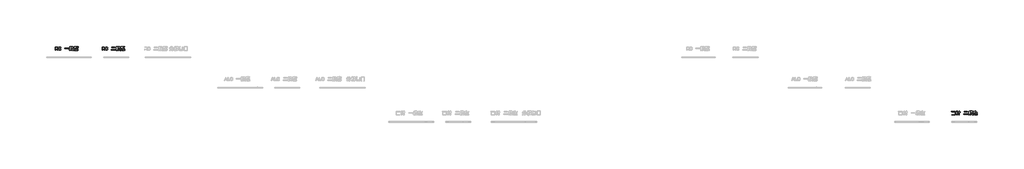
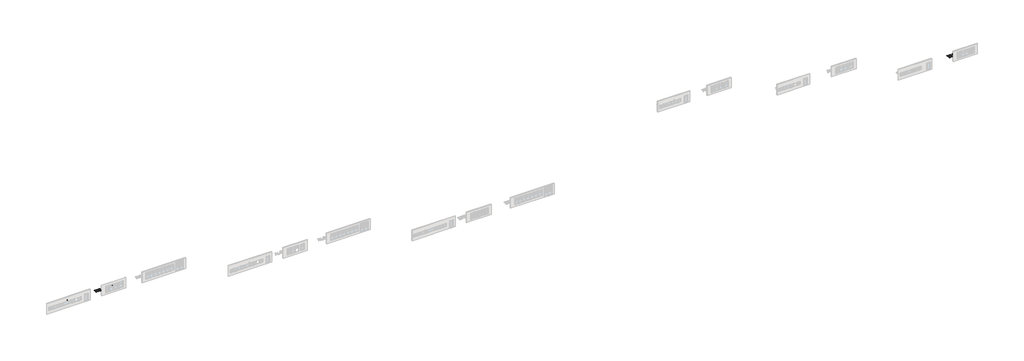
# One storey, part 7 of 9: 3 proxies.
"""IFC4 building model written with IfcOpenShell, lengths in millimetres."""

from ifc_helpers import new_model, si_unit, origin, origin_with_axes, place, context, project, spatial, polyline, outline, extrude, element, save

model = new_model("IFC4")

# Units and contexts
model_context = context("Model", 3, world=origin())
ifc_project = project(units=[si_unit("LENGTHUNIT", "METRE", prefix="MILLI")], contexts=[model_context])

# Site, building, storey
site = spatial("IfcSite", under=ifc_project)
building = spatial("IfcBuilding", under=site)
storey = spatial("IfcBuildingStorey", under=building, Name="レベル 1", Elevation=0.0)

# Proxies
placement = place(None, origin())
element("IfcBuildingElementProxy", 1, Name="600mm Arial", ObjectType="600mm Arial", at=placement, inside=storey, context=model_context, shape_type="SweptSolid", body=[
    extrude(outline(polyline([(-4763.9302584, 3042.8218942), (-4354.0874198, 3042.8218942), (-4307.4312039, 3038.8576406), (-4265.0441841, 3026.9648796), (-4226.9263606, 3007.1436114), (-4193.0777333, 2979.3938359), (-4165.3279578, 2944.6303808), (-4145.5066895, 2903.768074), (-4133.6139286, 2856.8069154), (-4129.6496749, 2803.7469051), (-4133.6139286, 2750.6868948), (-4145.5066895, 2703.7257362), (-4165.3279578, 2662.8634294), (-4193.0777333, 2628.0999743), (-4211.9841738, 2612.5479023), (-4234.5499253, 2600.0452562), (-4260.7749879, 2590.592036), (-4290.6593615, 2584.1882416), (-4100.3751865, 2208.498973), (-4222.3522218, 2208.498973), (-4397.9991525, 2562.5251202), (-4651.7113859, 2562.5251202), (-4651.7113859, 2208.498973), (-4763.9302584, 2208.498973), (-4763.9302584, 3042.8218942)]), holes=[polyline([(-4651.7113859, 2943.0934702), (-4651.7113859, 2662.2535442), (-4363.8455827, 2662.2535442), (-4340.3650034, 2664.3881423), (-4318.7140796, 2670.7919367), (-4298.8928114, 2681.4649272), (-4280.9011987, 2696.4071141), (-4265.9590119, 2715.9234397), (-4255.2860213, 2740.3188468), (-4248.8822269, 2769.5933352), (-4246.7476288, 2803.7469051), (-4249.1871695, 2836.0708194), (-4256.5057916, 2864.7354227), (-4268.7034952, 2889.740715), (-4285.7802801, 2911.0866961), (-4306.2114335, 2925.0896598), (-4328.4722424, 2935.0917767), (-4352.5627069, 2941.0930468), (-4378.4828269, 2943.0934702), (-4651.7113859, 2943.0934702)])]), origin_with_axes(), (0.0, 0.0, 1.0), 10.0),
    extrude(outline(polyline([(-4011.1855783, 2618.3418115), (-4009.2796871, 2670.5632297), (-4003.5620136, 2719.8876934), (-3994.0325577, 2766.3152024), (-3980.6913195, 2809.8457569), (-3963.5382989, 2850.4793567), (-3942.573496, 2888.216002), (-3917.7969107, 2923.0556927), (-3889.208543, 2954.9984288), (-3865.1943142, 2976.7255882), (-3839.5029012, 2995.5557931), (-3812.1343039, 3011.4890433), (-3783.0885223, 3024.5253389), (-3752.3655566, 3034.66468), (-3719.9654066, 3041.9070665), (-3650.1335539, 3047.7009756), (-3580.9115864, 3042.5169516), (-3519.6181262, 3026.9648796), (-3491.9445863, 3015.3008256), (-3466.2531732, 3001.0447596), (-3442.543887, 2984.1966817), (-3420.8167276, 2964.7565917), (-3382.0890189, 2917.7954331), (-3353.7293582, 2864.7354227), (-3335.7377455, 2805.5765606), (-3328.1141808, 2740.3188468), (-3445.2121346, 2740.3188468), (-3452.8356993, 2788.4997757), (-3465.9482306, 2830.5818529), (-3484.5497285, 2866.5650783), (-3508.640193, 2896.4494519), (-3539.4393944, 2922.0646293), (-3573.2880217, 2940.3611846), (-3610.1860748, 2951.3391178), (-3650.1335539, 2954.9984288), (-3692.8255162, 2950.7292326), (-3733.0779379, 2937.9216439), (-3770.8908188, 2916.5756627), (-3806.264159, 2886.6912891), (-3826.8477837, 2863.2869454), (-3844.6869252, 2836.9856472), (-3859.7815833, 2807.7873944), (-3872.1317581, 2775.692187), (-3881.7374496, 2740.700025), (-3888.5986578, 2702.8109084), (-3894.0876244, 2618.3418115), (-3888.5986578, 2533.8727146), (-3881.7374496, 2495.983598), (-3872.1317581, 2460.991436), (-3859.7815833, 2428.8962286), (-3844.6869252, 2399.6979758), (-3826.8477837, 2373.3966775), (-3806.264159, 2349.9923339), (-3772.7204743, 2322.2425584), (-3735.5174786, 2302.4212901), (-3694.6551718, 2290.5285292), (-3650.1335539, 2286.5642756), (-3604.0872231, 2289.918644), (-3563.5298589, 2299.9817494), (-3528.4614612, 2316.7535918), (-3498.8820302, 2340.2341711), (-3468.9976565, 2378.047052), (-3447.6516754, 2423.1785551), (-3434.8440866, 2475.6286802), (-3430.5748904, 2535.3974275), (-3313.4769366, 2535.3974275), (-3321.4054438, 2457.0271823), (-3329.4864224, 2421.2726639), (-3340.3118843, 2387.8052148), (-3353.8818295, 2356.6248352), (-3370.196258, 2327.731525), (-3389.2551697, 2301.1252841), (-3411.0585648, 2276.8061127), (-3432.9381955, 2257.3660227), (-3457.1048956, 2240.5179447), (-3483.5586651, 2226.2618787), (-3512.299504, 2214.5978247), (-3576.6423901, 2199.0457528), (-3650.1335539, 2193.8617288), (-3719.9654066, 2199.6556379), (-3752.3655566, 2206.8980244), (-3783.0885223, 2217.0373655), (-3812.1343039, 2230.0736611), (-3839.5029012, 2246.0069113), (-3865.1943142, 2264.8371161), (-3889.208543, 2286.5642756), (-3917.7969107, 2318.430776), (-3942.573496, 2353.0417598), (-3963.5382989, 2390.3972268), (-3980.6913195, 2430.4971772), (-3994.0325577, 2473.3416108), (-4003.5620136, 2518.9305277), (-4009.2796871, 2567.263928), (-4011.1855783, 2618.3418115)])), origin_with_axes(), (0.0, 0.0, 1.0), 10.0),
    extrude(outline(polyline([(-1303.6857218, 2725.6816025), (-1303.6857218, 2613.4627301), (-2333.1718995, 2613.4627301), (-2333.1718995, 2725.6816025), (-1303.6857218, 2725.6816025)])), origin_with_axes(), (0.0, 0.0, 1.0), 10.0),
    extrude(outline(polyline([(-932.8755346, 3101.3708712), (-872.8018447, 3112.6537469), (-814.5578104, 3126.9860486), (-758.1434316, 3144.3677761), (-703.5587083, 3164.7989295), (-635.2515685, 3086.7336269), (-630.3724871, 3076.3655789), (-635.2515685, 3069.656842), (-649.8888128, 3066.6074161), (-674.2842198, 3067.2173013), (-795.0414848, 3041.6021239), (-923.1173718, 3023.3055686), (-923.1173718, 2891.5703705), (-693.8005455, 2891.5703705), (-693.8005455, 2791.8419465), (-923.1173718, 2791.8419465), (-923.1173718, 2657.3744628), (-688.9214641, 2657.3744628), (-688.9214641, 2557.6460387), (-923.1173718, 2557.6460387), (-923.1173718, 2393.9040666), (-645.0097314, 2452.4530435), (-645.0097314, 2364.6295781), (-923.1173718, 2291.443357), (-923.1173718, 2096.2801005), (-1022.8457958, 2096.2801005), (-1022.8457958, 2271.9270313), (-1074.3688955, 2257.2897871), (-1077.723264, 2243.5673706), (-1082.907288, 2236.5536911), (-1089.9209675, 2236.2487485), (-1098.7643026, 2242.6525429), (-1113.4015468, 2364.6295781), (-1022.8457958, 2379.2668224), (-1022.8457958, 3120.8871968), (-932.8755346, 3101.3708712)])), origin_with_axes(), (0.0, 0.0, 1.0), 10.0),
    extrude(outline(polyline([(-40.0036364, 2096.2801005), (-121.1183649, 2126.4694168), (-198.5737823, 2163.3674699), (-272.3698886, 2206.97426), (-342.5066839, 2257.2897871), (-405.9347422, 2210.3286285), (-479.1209634, 2167.026781), (-562.0653474, 2127.3842445), (-654.7678942, 2091.4010191), (-698.6796269, 2193.8617288), (-609.3314486, 2221.9164469), (-531.5710886, 2252.4107057), (-465.3985469, 2285.3445052), (-410.8138237, 2320.7178454), (-453.8107286, 2379.1814384), (-490.0988966, 2440.5968757), (-519.6783276, 2504.9641572), (-542.5490217, 2572.283283), (-615.7352429, 2572.283283), (-615.7352429, 2672.011707), (-186.3760788, 2672.011707), (-166.8597531, 2691.5280327), (-88.7944505, 2628.0999743), (-78.7313451, 2619.2566393), (-77.8165174, 2612.2429597), (-86.0499672, 2607.0589357), (-103.4316948, 2603.7045673), (-141.8544609, 2516.1860445), (-183.9365381, 2439.0355696), (-229.6779263, 2372.2531428), (-279.0786256, 2315.838764), (-221.4444764, 2285.0395626), (-155.8818199, 2256.0700167), (-82.3906562, 2228.9301264), (-0.9709851, 2203.6198916), (-40.0036364, 2096.2801005)]), holes=[polyline([(-454.7255564, 2572.283283), (-438.5635992, 2524.5658668), (-414.4731347, 2475.677471), (-382.454163, 2425.6180958), (-342.5066839, 2374.387741), (-303.7789752, 2418.5922185), (-270.5402331, 2466.3096347), (-242.7904576, 2517.5399895), (-220.5296486, 2572.283283), (-454.7255564, 2572.283283)])]), origin_with_axes(), (0.0, 0.0, 1.0), 10.0),
    extrude(outline(polyline([(-127.8271018, 2847.6586378), (-104.6514651, 2852.5377192), (-97.6377856, 2858.636571), (-93.673532, 2867.1749634), (-74.1572063, 2945.240266), (18.5453405, 2920.844859), (10.235655, 2880.317989), (-0.0561574, 2845.1947017), (-12.3300966, 2815.474997), (-26.5861626, 2791.1588751), (-42.8243554, 2772.2463357), (-61.044675, 2758.7373791), (-81.2471215, 2750.6320051), (-103.4316948, 2747.9302138), (-205.8924044, 2747.9302138), (-226.9791844, 2749.3359991), (-245.2543937, 2753.5533551), (-260.7180323, 2760.5822817), (-273.3701003, 2770.4227791), (-283.2105976, 2783.074847), (-290.2395243, 2798.5384857), (-294.4568803, 2816.813695), (-295.8626656, 2837.900475), (-295.8626656, 3050.4332612), (-464.4837192, 3050.4332612), (-464.4837192, 2906.2076147), (-467.3806738, 2865.3453079), (-476.0715375, 2828.1423122), (-490.5563105, 2794.5986275), (-510.8349926, 2764.7142538), (-536.9075839, 2738.4891912), (-568.7740843, 2715.9234397), (-606.434494, 2697.0169992), (-649.8888128, 2681.7698698), (-688.9214641, 2769.5933352), (-659.692717, 2778.2079633), (-634.3611362, 2789.4146035), (-612.9267217, 2803.2132556), (-595.3894734, 2819.6039197), (-581.7493915, 2838.5865958), (-572.0064758, 2860.1612839), (-566.1607263, 2884.327984), (-564.2121432, 2911.0866961), (-564.2121432, 3150.1616853), (-196.1342416, 3150.1616853), (-196.1342416, 2886.6912891), (-193.9996435, 2869.6145041), (-187.5958491, 2857.4168006), (-176.9228585, 2850.0981785), (-161.9806717, 2847.6586378), (-127.8271018, 2847.6586378)])), origin_with_axes(), (0.0, 0.0, 1.0), 10.0),
    extrude(outline(polyline([(1209.0412047, 3086.7336269), (1209.0412047, 2896.4494519), (1126.0968207, 2896.4494519), (1110.5447487, 2845.4752489), (1100.2529364, 2825.4496691), (1088.2839398, 2809.0651038), (1074.637759, 2796.3215531), (1059.3143939, 2787.2190168), (1042.3138446, 2781.7574951), (1023.6361111, 2779.9369878), (818.7146919, 2779.9369878), (785.7564969, 2785.3893613), (772.8086346, 2792.2048281), (762.2149291, 2801.7464817), (753.9753804, 2814.014322), (748.0899884, 2829.0083491), (743.3816749, 2867.1749634), (743.3816749, 2999.4956513), (599.1560284, 2999.4956513), (592.8284697, 2950.2321762), (576.2853343, 2904.2193891), (549.5266222, 2861.4572899), (512.5523333, 2821.9458788), (465.3624678, 2785.6851556), (407.9570256, 2752.6751204), (340.3360067, 2722.9157733), (262.499411, 2696.4071141), (233.2249226, 2789.1096609), (296.1193314, 2807.7233564), (350.627819, 2828.5326387), (396.7503855, 2851.5375075), (434.4870308, 2876.737963), (463.8377549, 2904.1340051), (484.8025578, 2933.7256339), (497.3814396, 2965.5128493), (501.5744002, 2999.4956513), (272.2575739, 2999.4956513), (272.2575739, 2872.0540449), (172.5291498, 2872.0540449), (172.5291498, 3086.7336269), (636.0418838, 3086.7336269), (636.0418838, 3203.8315808), (730.8912265, 3203.8315808), (745.8334133, 3200.1722697), (751.6273225, 3194.073418), (748.272954, 3185.5350255), (735.7703079, 3174.5570923), (735.7703079, 3086.7336269), (1209.0412047, 3086.7336269)]), holes=[polyline([(994.3616227, 2867.1749634), (1009.9136946, 2870.8342745), (1022.4163408, 2881.8122077), (1031.869561, 2900.108763), (1038.2733553, 2925.7239404), (1109.3127807, 2906.2076147), (1109.3127807, 2999.4956513), (843.1100989, 2999.4956513), (843.1100989, 2896.4494519), (844.9397544, 2883.6418632), (850.428721, 2874.4935856), (859.5769987, 2869.004619), (872.3845874, 2867.1749634), (994.3616227, 2867.1749634)])]), origin_with_axes(), (0.0, 0.0, 1.0), 10.0),
    extrude(outline(polyline([(540.6070514, 2099.0123861), (519.5202715, 2100.4181715), (501.2450622, 2104.6355275), (485.7814235, 2111.6644541), (473.1293555, 2121.5049514), (463.2888582, 2134.1570194), (456.2599316, 2149.6206581), (452.0425756, 2167.8958674), (450.6367902, 2188.9826473), (450.6367902, 2432.9367179), (545.4861329, 2432.9367179), (560.4283197, 2429.2774068), (566.2222289, 2423.1785551), (562.8678604, 2414.6401626), (550.3652143, 2403.6622294), (550.3652143, 2232.89438), (552.1948698, 2217.9521932), (557.6838364, 2207.2792026), (566.832114, 2200.8754083), (579.6397027, 2198.7408102), (838.2310175, 2198.7408102), (849.7426002, 2200.4179944), (859.8819413, 2205.4495471), (876.0438984, 2225.5757579), (886.716889, 2259.1194426), (891.900913, 2306.0806012), (999.2407041, 2281.6851941), (994.3616227, 2238.8712548), (987.0430005, 2201.7658406), (977.2848377, 2170.3689518), (965.0871342, 2144.6805881), (950.44989, 2124.7007498), (933.373105, 2110.4294366), (913.8567794, 2101.8666488), (891.900913, 2099.0123861), (540.6070514, 2099.0123861)])), origin_with_axes(), (0.0, 0.0, 1.0), 10.0),
    extrude(outline(polyline([(306.4111437, 2491.4856948), (303.0567753, 2477.7632783), (297.8727513, 2470.7495988), (290.8590717, 2470.4446562), (282.0157367, 2476.8484506), (257.6203296, 2584.1882416), (408.8718534, 2584.1882416), (594.276947, 2842.7795564), (691.8585752, 2784.2305795), (692.1635178, 2774.167474), (688.1992641, 2768.3735649), (679.9658142, 2766.8488519), (667.4631681, 2769.5933352), (501.5744002, 2584.1882416), (921.1754015, 2608.5836487), (854.0880321, 2661.0337738), (789.4402034, 2701.2861955), (852.8682617, 2754.956091), (915.6864349, 2725.0717174), (987.0430005, 2679.3303291), (1066.9379586, 2617.7319263), (1155.3713092, 2540.2765089), (1067.5478438, 2471.9693692), (999.2407041, 2540.2765089), (306.4111437, 2491.4856948)])), origin_with_axes(), (0.0, 0.0, 1.0), 10.0),
    extrude(outline(polyline([(1057.789681, 2432.9367179), (1106.2755525, 2378.047052), (1149.2724574, 2320.7178454), (1186.7803958, 2260.9490982), (1218.7993675, 2198.7408102), (1121.2177393, 2135.3127518), (1090.4185379, 2203.6198916), (1056.5699106, 2267.0479499), (1019.6718575, 2325.5969268), (979.7243784, 2379.2668224), (1057.789681, 2432.9367179)])), origin_with_axes(), (0.0, 0.0, 1.0), 10.0),
    extrude(outline(polyline([(721.1330636, 2276.8061127), (703.4463935, 2309.7399123), (679.6608717, 2345.1132525), (613.7932726, 2423.1785551), (696.7376566, 2476.8484506), (727.8418006, 2450.0135028), (757.7261742, 2418.2994736), (786.3907775, 2381.7063631), (813.8356105, 2340.2341711), (721.1330636, 2276.8061127)])), origin_with_axes(), (0.0, 0.0, 1.0), 10.0),
    extrude(outline(polyline([(164.9177828, 2159.7081589), (200.5960656, 2228.9301264), (229.5656115, 2295.102668), (251.8264204, 2358.2257838), (267.3784924, 2418.2994736), (364.9601207, 2384.1459038), (371.9738002, 2376.8272817), (373.4985131, 2369.5086595), (369.5342595, 2362.1900374), (360.0810392, 2354.8714153), (341.1745988, 2288.3939311), (318.6088473, 2225.5757579), (292.3837847, 2166.4168958), (262.499411, 2110.9173448), (164.9177828, 2159.7081589)])), origin_with_axes(), (0.0, 0.0, 1.0), 10.0),
])
element("IfcBuildingElementProxy", 2, Name="600mm Arial", ObjectType="600mm Arial", at=placement, inside=storey, context=model_context, shape_type="SweptSolid", body=[
    extrude(outline(polyline([(7541.0127567, 3042.8218942), (7950.8555952, 3042.8218942), (7997.5118112, 3038.8576406), (8039.898831, 3026.9648796), (8078.0166545, 3007.1436114), (8111.8652818, 2979.3938359), (8139.6150573, 2944.6303808), (8159.4363256, 2903.768074), (8171.3290865, 2856.8069154), (8175.2933401, 2803.7469051), (8171.3290865, 2750.6868948), (8159.4363256, 2703.7257362), (8139.6150573, 2662.8634294), (8111.8652818, 2628.0999743), (8092.9588413, 2612.5479023), (8070.3930898, 2600.0452562), (8044.1680272, 2590.592036), (8014.2836536, 2584.1882416), (8204.5678286, 2208.498973), (8082.5907933, 2208.498973), (7906.9438625, 2562.5251202), (7653.2316292, 2562.5251202), (7653.2316292, 2208.498973), (7541.0127567, 2208.498973), (7541.0127567, 3042.8218942)]), holes=[polyline([(7653.2316292, 2943.0934702), (7653.2316292, 2662.2535442), (7941.0974324, 2662.2535442), (7964.5780117, 2664.3881423), (7986.2289355, 2670.7919367), (8006.0502037, 2681.4649272), (8024.0418164, 2696.4071141), (8038.9840032, 2715.9234397), (8049.6569938, 2740.3188468), (8056.0607882, 2769.5933352), (8058.1953863, 2803.7469051), (8055.7558456, 2836.0708194), (8048.4372235, 2864.7354227), (8036.2395199, 2889.740715), (8019.162735, 2911.0866961), (7998.7315816, 2925.0896598), (7976.4707726, 2935.0917767), (7952.3803082, 2941.0930468), (7926.4601882, 2943.0934702), (7653.2316292, 2943.0934702)])]), origin_with_axes(), (0.0, 0.0, 1.0), 10.0),
    extrude(outline(polyline([(8293.7574368, 2618.3418115), (8295.663328, 2670.5632297), (8301.3810015, 2719.8876934), (8310.9104574, 2766.3152024), (8324.2516956, 2809.8457569), (8341.4047162, 2850.4793567), (8362.3695191, 2888.216002), (8387.1461044, 2923.0556927), (8415.7344721, 2954.9984288), (8439.7487009, 2976.7255882), (8465.4401139, 2995.5557931), (8492.8087112, 3011.4890433), (8521.8544927, 3024.5253389), (8552.5774585, 3034.66468), (8584.9776085, 3041.9070665), (8654.8094612, 3047.7009756), (8724.0314287, 3042.5169516), (8785.3248889, 3026.9648796), (8812.9984288, 3015.3008256), (8838.6898419, 3001.0447596), (8862.3991281, 2984.1966817), (8884.1262875, 2964.7565917), (8922.8539962, 2917.7954331), (8951.2136569, 2864.7354227), (8969.2052696, 2805.5765606), (8976.8288343, 2740.3188468), (8859.7308804, 2740.3188468), (8852.1073157, 2788.4997757), (8838.9947844, 2830.5818529), (8820.3932866, 2866.5650783), (8796.3028221, 2896.4494519), (8765.5036207, 2922.0646293), (8731.6549934, 2940.3611846), (8694.7569402, 2951.3391178), (8654.8094612, 2954.9984288), (8612.1174988, 2950.7292326), (8571.8650772, 2937.9216439), (8534.0521963, 2916.5756627), (8498.678856, 2886.6912891), (8478.0952313, 2863.2869454), (8460.2560899, 2836.9856472), (8445.1614318, 2807.7873944), (8432.811257, 2775.692187), (8423.2055655, 2740.700025), (8416.3443572, 2702.8109084), (8410.8553906, 2618.3418115), (8416.3443572, 2533.8727146), (8423.2055655, 2495.983598), (8432.811257, 2460.991436), (8445.1614318, 2428.8962286), (8460.2560899, 2399.6979758), (8478.0952313, 2373.3966775), (8498.678856, 2349.9923339), (8532.2225407, 2322.2425584), (8569.4255365, 2302.4212901), (8610.2878433, 2290.5285292), (8654.8094612, 2286.5642756), (8700.855792, 2289.918644), (8741.4131562, 2299.9817494), (8776.4815539, 2316.7535918), (8806.0609849, 2340.2341711), (8835.9453586, 2378.047052), (8857.2913397, 2423.1785551), (8870.0989284, 2475.6286802), (8874.3681247, 2535.3974275), (8991.4660785, 2535.3974275), (8983.5375712, 2457.0271823), (8975.4565927, 2421.2726639), (8964.6311308, 2387.8052148), (8951.0611856, 2356.6248352), (8934.7467571, 2327.731525), (8915.6878454, 2301.1252841), (8893.8844503, 2276.8061127), (8872.0048196, 2257.3660227), (8847.8381195, 2240.5179447), (8821.38435, 2226.2618787), (8792.643511, 2214.5978247), (8728.3006249, 2199.0457528), (8654.8094612, 2193.8617288), (8584.9776085, 2199.6556379), (8552.5774585, 2206.8980244), (8521.8544927, 2217.0373655), (8492.8087112, 2230.0736611), (8465.4401139, 2246.0069113), (8439.7487009, 2264.8371161), (8415.7344721, 2286.5642756), (8387.1461044, 2318.430776), (8362.3695191, 2353.0417598), (8341.4047162, 2390.3972268), (8324.2516956, 2430.4971772), (8310.9104574, 2473.3416108), (8301.3810015, 2518.9305277), (8295.663328, 2567.263928), (8293.7574368, 2618.3418115)])), origin_with_axes(), (0.0, 0.0, 1.0), 10.0),
    extrude(outline(polyline([(10898.7965836, 3028.18465), (10898.7965836, 2915.9657775), (10098.6272323, 2915.9657775), (10098.6272323, 3028.18465), (10898.7965836, 3028.18465)])), origin_with_axes(), (0.0, 0.0, 1.0), 10.0),
    extrude(outline(polyline([(11020.7736189, 2364.6295781), (11020.7736189, 2252.4107057), (9966.8920342, 2252.4107057), (9966.8920342, 2364.6295781), (11020.7736189, 2364.6295781)])), origin_with_axes(), (0.0, 0.0, 1.0), 10.0),
    extrude(outline(polyline([(11372.0674805, 3101.3708712), (11432.1411704, 3112.6537469), (11490.3852047, 3126.9860486), (11546.7995835, 3144.3677761), (11601.3843068, 3164.7989295), (11669.6914465, 3086.7336269), (11674.5705279, 3076.3655789), (11669.6914465, 3069.656842), (11655.0542023, 3066.6074161), (11630.6587953, 3067.2173013), (11509.9015303, 3041.6021239), (11381.8256433, 3023.3055686), (11381.8256433, 2891.5703705), (11611.1424696, 2891.5703705), (11611.1424696, 2791.8419465), (11381.8256433, 2791.8419465), (11381.8256433, 2657.3744628), (11616.021551, 2657.3744628), (11616.021551, 2557.6460387), (11381.8256433, 2557.6460387), (11381.8256433, 2393.9040666), (11659.9332837, 2452.4530435), (11659.9332837, 2364.6295781), (11381.8256433, 2291.443357), (11381.8256433, 2096.2801005), (11282.0972193, 2096.2801005), (11282.0972193, 2271.9270313), (11230.5741196, 2257.2897871), (11227.2197511, 2243.5673706), (11222.0357271, 2236.5536911), (11215.0220476, 2236.2487485), (11206.1787125, 2242.6525429), (11191.5414683, 2364.6295781), (11282.0972193, 2379.2668224), (11282.0972193, 3120.8871968), (11372.0674805, 3101.3708712)])), origin_with_axes(), (0.0, 0.0, 1.0), 10.0),
    extrude(outline(polyline([(12264.9393787, 2096.2801005), (12183.8246502, 2126.4694168), (12106.3692328, 2163.3674699), (12032.5731265, 2206.97426), (11962.4363312, 2257.2897871), (11899.0082728, 2210.3286285), (11825.8220517, 2167.026781), (11742.8776677, 2127.3842445), (11650.1751209, 2091.4010191), (11606.2633882, 2193.8617288), (11695.6115665, 2221.9164469), (11773.3719265, 2252.4107057), (11839.5444682, 2285.3445052), (11894.1291914, 2320.7178454), (11851.1322865, 2379.1814384), (11814.8441185, 2440.5968757), (11785.2646875, 2504.9641572), (11762.3939933, 2572.283283), (11689.2077722, 2572.283283), (11689.2077722, 2672.011707), (12118.5669363, 2672.011707), (12138.083262, 2691.5280327), (12216.1485645, 2628.0999743), (12226.21167, 2619.2566393), (12227.1264977, 2612.2429597), (12218.8930478, 2607.0589357), (12201.5113203, 2603.7045673), (12163.0885542, 2516.1860445), (12121.006477, 2439.0355696), (12075.2650888, 2372.2531428), (12025.8643895, 2315.838764), (12083.4985387, 2285.0395626), (12149.0611951, 2256.0700167), (12222.5523589, 2228.9301264), (12303.9720299, 2203.6198916), (12264.9393787, 2096.2801005)]), holes=[polyline([(11850.2174587, 2572.283283), (11866.3794159, 2524.5658668), (11890.4698804, 2475.677471), (11922.4888521, 2425.6180958), (11962.4363312, 2374.387741), (12001.1640399, 2418.5922185), (12034.402782, 2466.3096347), (12062.1525575, 2517.5399895), (12084.4133665, 2572.283283), (11850.2174587, 2572.283283)])]), origin_with_axes(), (0.0, 0.0, 1.0), 10.0),
    extrude(outline(polyline([(12177.1159133, 2847.6586378), (12200.29155, 2852.5377192), (12207.3052295, 2858.636571), (12211.2694831, 2867.1749634), (12230.7858088, 2945.240266), (12323.4883556, 2920.844859), (12315.1786701, 2880.317989), (12304.8868577, 2845.1947017), (12292.6129185, 2815.474997), (12278.3568525, 2791.1588751), (12262.1186597, 2772.2463357), (12243.8983401, 2758.7373791), (12223.6958936, 2750.6320051), (12201.5113203, 2747.9302138), (12099.0506107, 2747.9302138), (12077.9638307, 2749.3359991), (12059.6886214, 2753.5533551), (12044.2249828, 2760.5822817), (12031.5729148, 2770.4227791), (12021.7324175, 2783.074847), (12014.7034908, 2798.5384857), (12010.4861348, 2816.813695), (12009.0803495, 2837.900475), (12009.0803495, 3050.4332612), (11840.4592959, 3050.4332612), (11840.4592959, 2906.2076147), (11837.5623413, 2865.3453079), (11828.8714776, 2828.1423122), (11814.3867046, 2794.5986275), (11794.1080225, 2764.7142538), (11768.0354312, 2738.4891912), (11736.1689308, 2715.9234397), (11698.5085211, 2697.0169992), (11655.0542023, 2681.7698698), (11616.021551, 2769.5933352), (11645.2502981, 2778.2079633), (11670.5818789, 2789.4146035), (11692.0162934, 2803.2132556), (11709.5535417, 2819.6039197), (11723.1936236, 2838.5865958), (11732.9365393, 2860.1612839), (11738.7822887, 2884.327984), (11740.7308719, 2911.0866961), (11740.7308719, 3150.1616853), (12108.8087735, 3150.1616853), (12108.8087735, 2886.6912891), (12110.9433716, 2869.6145041), (12117.347166, 2857.4168006), (12128.0201566, 2850.0981785), (12142.9623434, 2847.6586378), (12177.1159133, 2847.6586378)])), origin_with_axes(), (0.0, 0.0, 1.0), 10.0),
    extrude(outline(polyline([(13513.9842198, 3086.7336269), (13513.9842198, 2896.4494519), (13431.0398358, 2896.4494519), (13415.4877638, 2845.4752489), (13405.1959515, 2825.4496691), (13393.2269549, 2809.0651038), (13379.5807741, 2796.3215531), (13364.257409, 2787.2190168), (13347.2568597, 2781.7574951), (13328.5791262, 2779.9369878), (13123.6577069, 2779.9369878), (13090.699512, 2785.3893613), (13077.7516497, 2792.2048281), (13067.1579442, 2801.7464817), (13058.9183955, 2814.014322), (13053.0330035, 2829.0083491), (13048.32469, 2867.1749634), (13048.32469, 2999.4956513), (12904.0990435, 2999.4956513), (12897.7714848, 2950.2321762), (12881.2283494, 2904.2193891), (12854.4696372, 2861.4572899), (12817.4953484, 2821.9458788), (12770.3054829, 2785.6851556), (12712.9000407, 2752.6751204), (12645.2790218, 2722.9157733), (12567.4424261, 2696.4071141), (12538.1679377, 2789.1096609), (12601.0623465, 2807.7233564), (12655.5708341, 2828.5326387), (12701.6934006, 2851.5375075), (12739.4300459, 2876.737963), (12768.78077, 2904.1340051), (12789.7455729, 2933.7256339), (12802.3244547, 2965.5128493), (12806.5174152, 2999.4956513), (12577.2005889, 2999.4956513), (12577.2005889, 2872.0540449), (12477.4721649, 2872.0540449), (12477.4721649, 3086.7336269), (12940.9848989, 3086.7336269), (12940.9848989, 3203.8315808), (13035.8342416, 3203.8315808), (13050.7764284, 3200.1722697), (13056.5703376, 3194.073418), (13053.2159691, 3185.5350255), (13040.713323, 3174.5570923), (13040.713323, 3086.7336269), (13513.9842198, 3086.7336269)]), holes=[polyline([(13299.3046377, 2867.1749634), (13314.8567097, 2870.8342745), (13327.3593558, 2881.8122077), (13336.8125761, 2900.108763), (13343.2163704, 2925.7239404), (13414.2557958, 2906.2076147), (13414.2557958, 2999.4956513), (13148.053114, 2999.4956513), (13148.053114, 2896.4494519), (13149.8827695, 2883.6418632), (13155.3717361, 2874.4935856), (13164.5200138, 2869.004619), (13177.3276025, 2867.1749634), (13299.3046377, 2867.1749634)])]), origin_with_axes(), (0.0, 0.0, 1.0), 10.0),
    extrude(outline(polyline([(12845.5500665, 2099.0123861), (12824.4632866, 2100.4181715), (12806.1880773, 2104.6355275), (12790.7244386, 2111.6644541), (12778.0723706, 2121.5049514), (12768.2318733, 2134.1570194), (12761.2029466, 2149.6206581), (12756.9855907, 2167.8958674), (12755.5798053, 2188.9826473), (12755.5798053, 2432.9367179), (12850.4291479, 2432.9367179), (12865.3713348, 2429.2774068), (12871.1652439, 2423.1785551), (12867.8108755, 2414.6401626), (12855.3082294, 2403.6622294), (12855.3082294, 2232.89438), (12857.1378849, 2217.9521932), (12862.6268515, 2207.2792026), (12871.7751291, 2200.8754083), (12884.5827178, 2198.7408102), (13143.1740326, 2198.7408102), (13154.6856153, 2200.4179944), (13164.8249564, 2205.4495471), (13180.9869135, 2225.5757579), (13191.6599041, 2259.1194426), (13196.8439281, 2306.0806012), (13304.1837191, 2281.6851941), (13299.3046377, 2238.8712548), (13291.9860156, 2201.7658406), (13282.2278528, 2170.3689518), (13270.0301493, 2144.6805881), (13255.392905, 2124.7007498), (13238.3161201, 2110.4294366), (13218.7997945, 2101.8666488), (13196.8439281, 2099.0123861), (12845.5500665, 2099.0123861)])), origin_with_axes(), (0.0, 0.0, 1.0), 10.0),
    extrude(outline(polyline([(12611.3541588, 2491.4856948), (12607.9997903, 2477.7632783), (12602.8157663, 2470.7495988), (12595.8020868, 2470.4446562), (12586.9587518, 2476.8484506), (12562.5633447, 2584.1882416), (12713.8148684, 2584.1882416), (12899.2199621, 2842.7795564), (12996.8015903, 2784.2305795), (12997.1065329, 2774.167474), (12993.1422792, 2768.3735649), (12984.9088293, 2766.8488519), (12972.4061832, 2769.5933352), (12806.5174152, 2584.1882416), (13226.1184166, 2608.5836487), (13159.0310472, 2661.0337738), (13094.3832185, 2701.2861955), (13157.8112768, 2754.956091), (13220.62945, 2725.0717174), (13291.9860156, 2679.3303291), (13371.8809737, 2617.7319263), (13460.3143243, 2540.2765089), (13372.4908589, 2471.9693692), (13304.1837191, 2540.2765089), (12611.3541588, 2491.4856948)])), origin_with_axes(), (0.0, 0.0, 1.0), 10.0),
    extrude(outline(polyline([(13362.7326961, 2432.9367179), (13411.2185676, 2378.047052), (13454.2154725, 2320.7178454), (13491.7234109, 2260.9490982), (13523.7423826, 2198.7408102), (13426.1607544, 2135.3127518), (13395.361553, 2203.6198916), (13361.5129257, 2267.0479499), (13324.6148726, 2325.5969268), (13284.6673935, 2379.2668224), (13362.7326961, 2432.9367179)])), origin_with_axes(), (0.0, 0.0, 1.0), 10.0),
    extrude(outline(polyline([(13026.0760787, 2276.8061127), (13008.3894086, 2309.7399123), (12984.6038867, 2345.1132525), (12918.7362877, 2423.1785551), (13001.6806717, 2476.8484506), (13032.7848157, 2450.0135028), (13062.6691893, 2418.2994736), (13091.3337926, 2381.7063631), (13118.7786255, 2340.2341711), (13026.0760787, 2276.8061127)])), origin_with_axes(), (0.0, 0.0, 1.0), 10.0),
    extrude(outline(polyline([(12469.8607979, 2159.7081589), (12505.5390807, 2228.9301264), (12534.5086266, 2295.102668), (12556.7694355, 2358.2257838), (12572.3215075, 2418.2994736), (12669.9031357, 2384.1459038), (12676.9168153, 2376.8272817), (12678.4415282, 2369.5086595), (12674.4772746, 2362.1900374), (12665.0240543, 2354.8714153), (12646.1176139, 2288.3939311), (12623.5518623, 2225.5757579), (12597.3267998, 2166.4168958), (12567.4424261, 2110.9173448), (12469.8607979, 2159.7081589)])), origin_with_axes(), (0.0, 0.0, 1.0), 10.0),
])
element("IfcBuildingElementProxy", 3, Name="600mm Arial", ObjectType="600mm Arial", at=placement, inside=storey, context=model_context, shape_type="SweptSolid", body=[
    extrude(outline(polyline([(231831.4662831, -14884.2035738), (231731.7378591, -14884.2035738), (231731.7378591, -14842.4386369), (230987.3851991, -14842.4386369), (230987.3851991, -14903.7198995), (230887.656775, -14903.7198995), (230887.656775, -14132.8250366), (231289.8882465, -14132.8250366), (231328.9208978, -13978.8412272), (230831.2545939, -13978.8412272), (230831.2545939, -13879.1128032), (231890.0152601, -13879.1128032), (231890.0152601, -13978.8412272), (231441.1397703, -13978.8412272), (231387.4698747, -14132.8250366), (231831.4662831, -14132.8250366), (231831.4662831, -14884.2035738)]), holes=[polyline([(231156.0062526, -14742.7102129), (231156.0062526, -14232.5534606), (230987.3851991, -14232.5534606), (230987.3851991, -14742.7102129), (231156.0062526, -14742.7102129)]), polyline([(231463.3883815, -14742.7102129), (231463.3883815, -14629.9058507), (231255.7346767, -14629.9058507), (231255.7346767, -14742.7102129), (231463.3883815, -14742.7102129)]), polyline([(231463.3883815, -14542.6678751), (231463.3883815, -14439.6216757), (231255.7346767, -14439.6216757), (231255.7346767, -14542.6678751), (231463.3883815, -14542.6678751)]), polyline([(231463.3883815, -14232.5534606), (231255.7346767, -14232.5534606), (231255.7346767, -14352.3837), (231463.3883815, -14352.3837), (231463.3883815, -14232.5534606)]), polyline([(231731.7378591, -14232.5534606), (231563.1168055, -14232.5534606), (231563.1168055, -14742.7102129), (231731.7378591, -14742.7102129), (231731.7378591, -14232.5534606)])]), origin_with_axes(), (0.0, 0.0, 1.0), 10.0),
    extrude(outline(polyline([(232412.076971, -13898.6291288), (232395.6100712, -13959.6176465), (232375.4838604, -14020.6061641), (232351.6983385, -14081.5946817), (232324.2535056, -14142.5831994), (232343.1599461, -14148.6820511), (232351.0884534, -14157.2204436), (232348.0390275, -14168.1983768), (232334.0116684, -14181.6158507), (232334.0116684, -14903.7198995), (232234.2832444, -14903.7198995), (232234.2832444, -14298.7138045), (232181.7355376, -14370.6802553), (232129.0902492, -14430.4490026), (232051.0249466, -14342.6255372), (232101.1880024, -14290.8615329), (232146.7769193, -14235.5906888), (232187.7916974, -14176.8130049), (232224.2323367, -14114.5284813), (232256.0988372, -14048.7371179), (232283.3911988, -13979.4389147), (232306.1094216, -13906.6338718), (232324.2535056, -13830.3219891), (232426.7142152, -13869.3546404), (232433.1180096, -13878.502918), (232432.813067, -13886.4314253), (232425.7993875, -13893.1401623), (232412.076971, -13898.6291288)])), origin_with_axes(), (0.0, 0.0, 1.0), 10.0),
    extrude(outline(polyline([(232863.6847464, -14113.3087109), (232863.6847464, -13835.2010705), (232958.534089, -13835.2010705), (232973.4762758, -13838.8603816), (232979.270185, -13844.9592333), (232975.9158165, -13853.4976258), (232963.4131704, -13864.475559), (232963.4131704, -14113.3087109), (233163.4555083, -14113.3087109), (233163.4555083, -14213.037135), (232963.4131704, -14213.037135), (232963.4131704, -14811.0173527), (232958.534089, -14848.2447438), (232952.4352373, -14862.8697904), (232943.8968448, -14874.8357375), (232932.9189116, -14884.1425853), (232919.5014377, -14890.7903337), (232885.3478679, -14896.1085325), (232738.9754255, -14896.1085325), (232714.5800185, -14796.3801084), (232846.3152166, -14796.3801084), (232859.3423639, -14791.501027), (232863.6847464, -14776.8637828), (232863.6847464, -14213.037135), (232426.7142152, -14213.037135), (232426.7142152, -14113.3087109), (232863.6847464, -14113.3087109)])), origin_with_axes(), (0.0, 0.0, 1.0), 10.0),
    extrude(outline(polyline([(232582.8448204, -14332.8673744), (232623.4021846, -14385.6224422), (232662.1298933, -14441.4269358), (232734.0963441, -14562.1842007), (232636.5147159, -14625.612259), (232601.7512609, -14557.9150045), (232565.7680354, -14496.3166017), (232528.5650397, -14440.8170506), (232490.1422736, -14391.4163513), (232582.8448204, -14332.8673744)])), origin_with_axes(), (0.0, 0.0, 1.0), 10.0),
    extrude(outline(polyline([(235085.6184209, -13971.81535), (235085.6184209, -14084.0342225), (234285.4490695, -14084.0342225), (234285.4490695, -13971.81535), (235085.6184209, -13971.81535)])), origin_with_axes(), (0.0, 0.0, 1.0), 10.0),
    extrude(outline(polyline([(235207.5954561, -14635.3704219), (235207.5954561, -14747.5892943), (234153.7138714, -14747.5892943), (234153.7138714, -14635.3704219), (235207.5954561, -14635.3704219)])), origin_with_axes(), (0.0, 0.0, 1.0), 10.0),
    extrude(outline(polyline([(235558.8893177, -13898.6291288), (235618.9630076, -13887.3462531), (235677.2070419, -13873.0139514), (235733.6214207, -13855.6322239), (235788.206144, -13835.2010705), (235856.5132838, -13913.2663731), (235861.3923652, -13923.6344211), (235856.5132838, -13930.343158), (235841.8760395, -13933.3925839), (235817.4806325, -13932.7826987), (235696.7233676, -13958.3978761), (235568.6474805, -13976.6944314), (235568.6474805, -14108.4296295), (235797.9643068, -14108.4296295), (235797.9643068, -14208.1580535), (235568.6474805, -14208.1580535), (235568.6474805, -14342.6255372), (235802.8433882, -14342.6255372), (235802.8433882, -14442.3539613), (235568.6474805, -14442.3539613), (235568.6474805, -14606.0959334), (235846.7551209, -14547.5469565), (235846.7551209, -14635.3704219), (235568.6474805, -14708.556643), (235568.6474805, -14903.7198995), (235468.9190565, -14903.7198995), (235468.9190565, -14728.0729687), (235417.3959568, -14742.7102129), (235414.0415883, -14756.4326294), (235408.8575643, -14763.4463089), (235401.8438848, -14763.7512515), (235393.0005497, -14757.3474571), (235378.3633055, -14635.3704219), (235468.9190565, -14620.7331776), (235468.9190565, -13879.1128032), (235558.8893177, -13898.6291288)])), origin_with_axes(), (0.0, 0.0, 1.0), 10.0),
    extrude(outline(polyline([(236363.9377505, -14152.3413622), (236387.1133872, -14147.4622808), (236394.1270667, -14141.363429), (236398.0913204, -14132.8250366), (236417.607646, -14054.759734), (236510.3101928, -14079.155141), (236502.0005073, -14119.682011), (236491.7086949, -14154.8052983), (236479.4347558, -14184.525003), (236465.1786898, -14208.8411249), (236448.9404969, -14227.7536643), (236430.7201773, -14241.2626209), (236410.5177308, -14249.3679949), (236388.3331575, -14252.0697862), (236285.8724479, -14252.0697862), (236264.7856679, -14250.6640009), (236246.5104586, -14246.4466449), (236231.04682, -14239.4177183), (236218.394752, -14229.5772209), (236208.5542547, -14216.925153), (236201.525328, -14201.4615143), (236197.307972, -14183.186305), (236195.9021867, -14162.099525), (236195.9021867, -13949.5667388), (236027.2811331, -13949.5667388), (236027.2811331, -14093.7923853), (236024.3841786, -14134.6546921), (236015.6933148, -14171.8576878), (236001.2085418, -14205.4013725), (235980.9298597, -14235.2857462), (235954.8572684, -14261.5108088), (235922.990768, -14284.0765603), (235885.3303583, -14302.9830008), (235841.8760395, -14318.2301302), (235802.8433882, -14230.4066648), (235832.0721353, -14221.7920367), (235857.4037161, -14210.5853965), (235878.8381306, -14196.7867444), (235896.3753789, -14180.3960803), (235910.0154609, -14161.4134042), (235919.7583765, -14139.8387161), (235925.604126, -14115.672016), (235927.5527091, -14088.9133039), (235927.5527091, -13849.8383147), (236295.6306107, -13849.8383147), (236295.6306107, -14113.3087109), (236297.7652088, -14130.3854959), (236304.1690032, -14142.5831994), (236314.8419938, -14149.9018215), (236329.7841806, -14152.3413622), (236363.9377505, -14152.3413622)])), origin_with_axes(), (0.0, 0.0, 1.0), 10.0),
    extrude(outline(polyline([(236451.7612159, -14903.7198995), (236370.6464874, -14873.5305832), (236293.19107, -14836.6325301), (236219.3949637, -14793.02574), (236149.2581684, -14742.7102129), (236085.8301101, -14789.6713715), (236012.6438889, -14832.973219), (235929.6995049, -14872.6157555), (235836.9969581, -14908.5989809), (235793.0852254, -14806.1382712), (235882.4334038, -14778.0835531), (235960.1937637, -14747.5892943), (236026.3663054, -14714.6554948), (236080.9510287, -14679.2821546), (236037.9541237, -14620.8185616), (236001.6659557, -14559.4031243), (235972.0865247, -14495.0358428), (235949.2158306, -14427.716717), (235876.0296094, -14427.716717), (235876.0296094, -14327.988293), (236305.3887736, -14327.988293), (236324.9050992, -14308.4719673), (236402.9704018, -14371.9000257), (236413.0335072, -14380.7433607), (236413.9483349, -14387.7570403), (236405.7148851, -14392.9410643), (236388.3331575, -14396.2954327), (236349.9103914, -14483.8139555), (236307.8283143, -14560.9644304), (236262.086926, -14627.7468572), (236212.6862267, -14684.161236), (236270.3203759, -14714.9604374), (236335.8830324, -14743.9299833), (236409.3741961, -14771.0698736), (236490.7938672, -14796.3801084), (236451.7612159, -14903.7198995)]), holes=[polyline([(236037.039296, -14427.716717), (236053.2012531, -14475.4341332), (236077.2917176, -14524.322529), (236109.3106894, -14574.3819042), (236149.2581684, -14625.612259), (236187.9858771, -14581.4077815), (236221.2246192, -14533.6903653), (236248.9743947, -14482.4600105), (236271.2352037, -14427.716717), (236037.039296, -14427.716717)])]), origin_with_axes(), (0.0, 0.0, 1.0), 10.0),
    extrude(outline(polyline([(237032.3719038, -14900.9876139), (237011.2851238, -14899.5818285), (236993.0099145, -14895.3644725), (236977.5462758, -14888.3355459), (236964.8942078, -14878.4950486), (236955.0537105, -14865.8429806), (236948.0247839, -14850.3793419), (236943.8074279, -14832.1041326), (236942.4016425, -14811.0173527), (236942.4016425, -14567.0632821), (237037.2509852, -14567.0632821), (237052.193172, -14570.7225932), (237057.9870812, -14576.8214449), (237054.6327127, -14585.3598374), (237042.1300666, -14596.3377706), (237042.1300666, -14767.10562), (237043.9597221, -14782.0478068), (237049.4486887, -14792.7207974), (237058.5969663, -14799.1245917), (237071.404555, -14801.2591898), (237329.9958698, -14801.2591898), (237341.5074525, -14799.5820056), (237351.6467936, -14794.5504529), (237367.8087507, -14774.4242421), (237378.4817413, -14740.8805574), (237383.6657653, -14693.9193988), (237491.0055564, -14718.3148059), (237486.126475, -14761.1287452), (237478.8078528, -14798.2341594), (237469.04969, -14829.6310482), (237456.8519865, -14855.3194119), (237442.2147423, -14875.2992502), (237425.1379573, -14889.5705634), (237405.6216317, -14898.1333512), (237383.6657653, -14900.9876139), (237032.3719038, -14900.9876139)])), origin_with_axes(), (0.0, 0.0, 1.0), 10.0),
    extrude(outline(polyline([(236798.175996, -14508.5143052), (236794.8216276, -14522.2367217), (236789.6376036, -14529.2504012), (236782.623924, -14529.5553438), (236773.780589, -14523.1515494), (236749.3851819, -14415.8117584), (236900.6367057, -14415.8117584), (237086.0417993, -14157.2204436), (237183.6234275, -14215.7694205), (237183.9283701, -14225.832526), (237179.9641164, -14231.6264351), (237171.7306666, -14233.1511481), (237159.2280204, -14230.4066648), (236993.3392525, -14415.8117584), (237412.9402538, -14391.4163513), (237345.8528844, -14338.9662262), (237281.2050557, -14298.7138045), (237344.633114, -14245.043909), (237407.4512872, -14274.9282826), (237478.8078528, -14320.6696709), (237558.7028109, -14382.2680737), (237647.1361615, -14459.7234911), (237559.3126961, -14528.0306308), (237491.0055564, -14459.7234911), (236798.175996, -14508.5143052)])), origin_with_axes(), (0.0, 0.0, 1.0), 10.0),
    extrude(outline(polyline([(237549.5545333, -14567.0632821), (237598.0404048, -14621.952948), (237641.0373098, -14679.2821546), (237678.5452481, -14739.0509019), (237710.5642199, -14801.2591898), (237612.9825916, -14864.6872482), (237582.1833902, -14796.3801084), (237548.3347629, -14732.9520501), (237511.4367098, -14674.4030732), (237471.4892307, -14620.7331776), (237549.5545333, -14567.0632821)])), origin_with_axes(), (0.0, 0.0, 1.0), 10.0),
    extrude(outline(polyline([(237212.897916, -14723.1938873), (237195.2112458, -14690.2600877), (237171.425724, -14654.8867475), (237105.5581249, -14576.8214449), (237188.5025089, -14523.1515494), (237219.6066529, -14549.9864972), (237249.4910265, -14581.7005264), (237278.1556298, -14618.2936369), (237305.6004628, -14659.7658289), (237212.897916, -14723.1938873)])), origin_with_axes(), (0.0, 0.0, 1.0), 10.0),
    extrude(outline(polyline([(236656.6826351, -14840.2918411), (236692.3609179, -14771.0698736), (236721.3304638, -14704.897332), (236743.5912728, -14641.7742162), (236759.1433448, -14581.7005264), (236856.724973, -14615.8540962), (236863.7386525, -14623.1727183), (236865.2633654, -14630.4913405), (236861.2991118, -14637.8099626), (236851.8458916, -14645.1285847), (236832.9394511, -14711.6060689), (236810.3736996, -14774.4242421), (236784.148637, -14833.5831042), (236754.2642633, -14889.0826552), (236656.6826351, -14840.2918411)])), origin_with_axes(), (0.0, 0.0, 1.0), 10.0),
    extrude(outline(polyline([(237700.806057, -13913.2663731), (237700.806057, -14103.5505481), (237617.8616731, -14103.5505481), (237602.3096011, -14154.5247511), (237592.0177887, -14174.5503309), (237580.0487921, -14190.9348962), (237566.4026113, -14203.6784469), (237551.0792462, -14212.7809832), (237534.078697, -14218.2425049), (237515.4009634, -14220.0630122), (237310.4795442, -14220.0630122), (237277.5213492, -14214.6106387), (237264.5734869, -14207.7951719), (237253.9797814, -14198.2535183), (237245.7402327, -14185.985678), (237239.8548408, -14170.9916509), (237235.1465272, -14132.8250366), (237235.1465272, -14000.5043487), (237090.9208807, -14000.5043487), (237084.593322, -14049.7678238), (237068.0501866, -14095.7806109), (237041.2914745, -14138.5427101), (237004.3171856, -14178.0541212), (236957.1273201, -14214.3148444), (236899.7218779, -14247.3248796), (236832.100859, -14277.0842267), (236754.2642633, -14303.5928859), (236724.9897749, -14210.8903391), (236787.8841837, -14192.2766436), (236842.3926713, -14171.4673613), (236888.5152378, -14148.4624925), (236926.2518831, -14123.262037), (236955.6026072, -14095.8659949), (236976.5674101, -14066.2743661), (236989.1462919, -14034.4871507), (236993.3392525, -14000.5043487), (236764.0224262, -14000.5043487), (236764.0224262, -14127.9459552), (236664.2940021, -14127.9459552), (236664.2940021, -13913.2663731), (237127.8067362, -13913.2663731), (237127.8067362, -13796.1684192), (237222.6560788, -13796.1684192), (237237.5982656, -13799.8277303), (237243.3921748, -13805.926582), (237240.0378063, -13814.4649745), (237227.5351602, -13825.4429077), (237227.5351602, -13913.2663731), (237700.806057, -13913.2663731)]), holes=[polyline([(237486.126475, -14132.8250366), (237501.678547, -14129.1657255), (237514.1811931, -14118.1877923), (237523.6344133, -14099.891237), (237530.0382077, -14074.2760596), (237601.077633, -14093.7923853), (237601.077633, -14000.5043487), (237334.8749512, -14000.5043487), (237334.8749512, -14103.5505481), (237336.7046068, -14116.3581368), (237342.1935733, -14125.5064144), (237351.341851, -14130.995381), (237364.1494397, -14132.8250366), (237486.126475, -14132.8250366)])]), origin_with_axes(), (0.0, 0.0, 1.0), 10.0),
])

save(model, "model.ifc")
